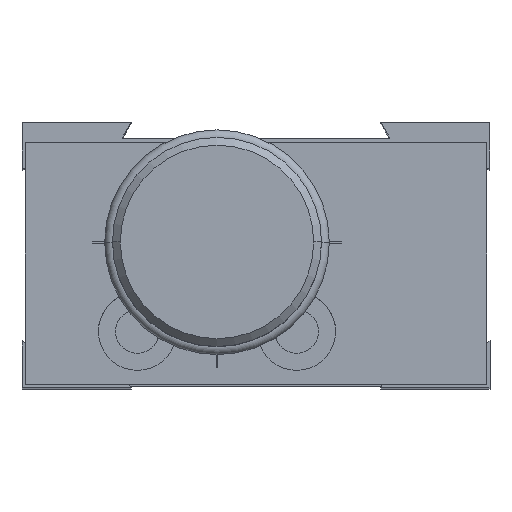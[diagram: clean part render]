
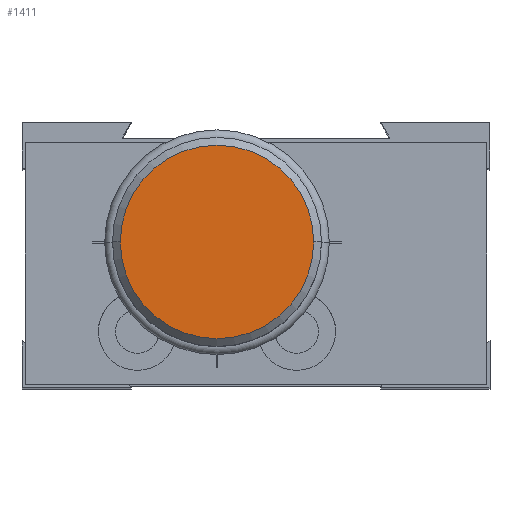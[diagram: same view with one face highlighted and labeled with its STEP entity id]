
A CAD part, top view. The second image highlights one B-rep face of the part: STEP entity #1411.
In plain terms, the highlighted planar face has unit normal (0, 0, 1).
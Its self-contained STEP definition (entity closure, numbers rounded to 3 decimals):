
#119 = VERTEX_POINT ( 'NONE', #1846 ) ;
#120 = VERTEX_POINT ( 'NONE', #1845 ) ;
#123 = EDGE_CURVE ( 'NONE', #120, #119, #1844, .T. ) ;
#1411 = ADVANCED_FACE ( 'NONE', ( #4000 ), #3999, .T. ) ;
#1412 = EDGE_LOOP ( 'NONE', ( #1413, #1415 ) ) ;
#1413 = ORIENTED_EDGE ( 'NONE', *, *, #1414, .T. ) ;
#1414 = EDGE_CURVE ( 'NONE', #119, #120, #4058, .T. ) ;
#1415 = ORIENTED_EDGE ( 'NONE', *, *, #123, .T. ) ;
#1841 = DIRECTION ( 'NONE',  ( 0., 0., 1. ) ) ;
#1842 = CARTESIAN_POINT ( 'NONE',  ( -2.5, 9.3, 58.5 ) ) ;
#1843 = AXIS2_PLACEMENT_3D ( 'NONE', #1842, #1841, #1902 ) ;
#1844 = CIRCLE ( 'NONE', #1843, 6.2 ) ;
#1845 = CARTESIAN_POINT ( 'NONE',  ( 3.7, 9.3, 58.5 ) ) ;
#1846 = CARTESIAN_POINT ( 'NONE',  ( -8.7, 9.3, 58.5 ) ) ;
#1902 = DIRECTION ( 'NONE',  ( 1., 0., 0. ) ) ;
#3995 = DIRECTION ( 'NONE',  ( 1., 0., 0. ) ) ;
#3996 = DIRECTION ( 'NONE',  ( 0., 0., 1. ) ) ;
#3997 = CARTESIAN_POINT ( 'NONE',  ( -2.5, 9.3, 58.5 ) ) ;
#3998 = AXIS2_PLACEMENT_3D ( 'NONE', #3997, #3996, #3995 ) ;
#3999 = PLANE ( 'NONE',  #3998 ) ;
#4000 = FACE_OUTER_BOUND ( 'NONE', #1412, .T. ) ;
#4054 = DIRECTION ( 'NONE',  ( 1., 0., 0. ) ) ;
#4055 = DIRECTION ( 'NONE',  ( 0., 0., 1. ) ) ;
#4056 = CARTESIAN_POINT ( 'NONE',  ( -2.5, 9.3, 58.5 ) ) ;
#4057 = AXIS2_PLACEMENT_3D ( 'NONE', #4056, #4055, #4054 ) ;
#4058 = CIRCLE ( 'NONE', #4057, 6.2 ) ;
